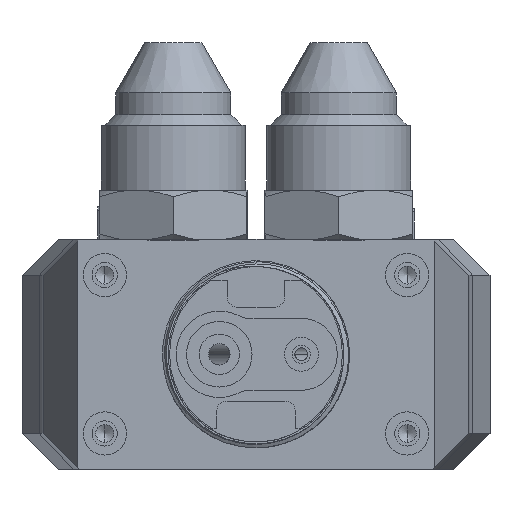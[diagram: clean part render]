
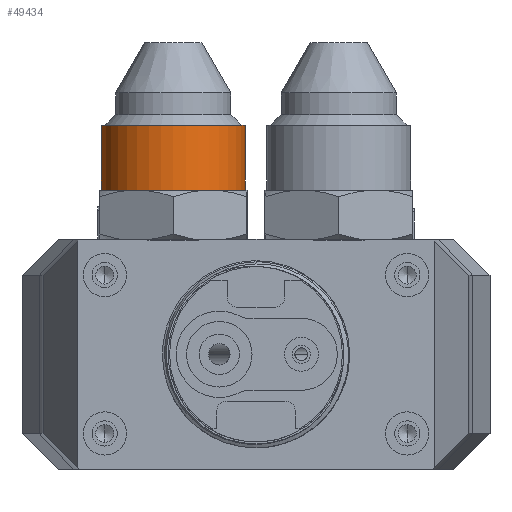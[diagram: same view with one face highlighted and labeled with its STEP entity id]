
A CAD part, front view. The second image highlights one B-rep face of the part: STEP entity #49434.
In plain terms, the highlighted cylindrical face has radius 10 mm (diameter 20 mm), a partial arc.
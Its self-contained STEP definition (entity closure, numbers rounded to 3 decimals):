
#3155 = CARTESIAN_POINT ( 'NONE',  ( 57.484, -124.724, 1041.175 ) ) ;
#4271 = VERTEX_POINT ( 'NONE', #34880 ) ;
#4596 = CARTESIAN_POINT ( 'NONE',  ( 57.484, -124.724, 1018.903 ) ) ;
#6448 = AXIS2_PLACEMENT_3D ( 'NONE', #59761, #16205, #30212 ) ;
#7614 = LINE ( 'NONE', #3155, #44379 ) ;
#8998 = CIRCLE ( 'NONE', #39493, 10. ) ;
#9308 = CARTESIAN_POINT ( 'NONE',  ( 47.484, -124.724, 1041.175 ) ) ;
#16205 = DIRECTION ( 'NONE',  ( 0., 0., 1. ) ) ;
#16272 = DIRECTION ( 'NONE',  ( 1., 0., 0. ) ) ;
#19088 = VERTEX_POINT ( 'NONE', #44677 ) ;
#19151 = ORIENTED_EDGE ( 'NONE', *, *, #48199, .T. ) ;
#20208 = DIRECTION ( 'NONE',  ( 0., 0., 1. ) ) ;
#22699 = CIRCLE ( 'NONE', #6448, 10. ) ;
#23385 = EDGE_CURVE ( 'NONE', #32599, #19088, #22699, .T. ) ;
#25191 = CYLINDRICAL_SURFACE ( 'NONE', #28384, 10. ) ;
#27521 = DIRECTION ( 'NONE',  ( 1., 0., 0. ) ) ;
#28384 = AXIS2_PLACEMENT_3D ( 'NONE', #9308, #38577, #16272 ) ;
#29669 = CARTESIAN_POINT ( 'NONE',  ( 37.484, -124.724, 1009.903 ) ) ;
#30212 = DIRECTION ( 'NONE',  ( 1., 0., 0. ) ) ;
#32421 = DIRECTION ( 'NONE',  ( 0., 0., 1. ) ) ;
#32599 = VERTEX_POINT ( 'NONE', #29669 ) ;
#33816 = FACE_OUTER_BOUND ( 'NONE', #59096, .T. ) ;
#34880 = CARTESIAN_POINT ( 'NONE',  ( 37.484, -124.724, 1018.903 ) ) ;
#36411 = ORIENTED_EDGE ( 'NONE', *, *, #50808, .F. ) ;
#38519 = VERTEX_POINT ( 'NONE', #4596 ) ;
#38577 = DIRECTION ( 'NONE',  ( 0., 0., 1. ) ) ;
#39493 = AXIS2_PLACEMENT_3D ( 'NONE', #52308, #57085, #27521 ) ;
#44379 = VECTOR ( 'NONE', #32421, 1000. ) ;
#44677 = CARTESIAN_POINT ( 'NONE',  ( 57.484, -124.724, 1009.903 ) ) ;
#46268 = ORIENTED_EDGE ( 'NONE', *, *, #23385, .T. ) ;
#46769 = VECTOR ( 'NONE', #20208, 1000. ) ;
#48199 = EDGE_CURVE ( 'NONE', #38519, #4271, #8998, .T. ) ;
#49434 = ADVANCED_FACE ( 'NONE', ( #33816 ), #25191, .T. ) ;
#50808 = EDGE_CURVE ( 'NONE', #32599, #4271, #58666, .T. ) ;
#52308 = CARTESIAN_POINT ( 'NONE',  ( 47.484, -124.724, 1018.903 ) ) ;
#55161 = CARTESIAN_POINT ( 'NONE',  ( 37.484, -124.724, 1041.175 ) ) ;
#56366 = ORIENTED_EDGE ( 'NONE', *, *, #61910, .T. ) ;
#57085 = DIRECTION ( 'NONE',  ( 0., 0., -1. ) ) ;
#58666 = LINE ( 'NONE', #55161, #46769 ) ;
#59096 = EDGE_LOOP ( 'NONE', ( #36411, #46268, #56366, #19151 ) ) ;
#59761 = CARTESIAN_POINT ( 'NONE',  ( 47.484, -124.724, 1009.903 ) ) ;
#61910 = EDGE_CURVE ( 'NONE', #19088, #38519, #7614, .T. ) ;
